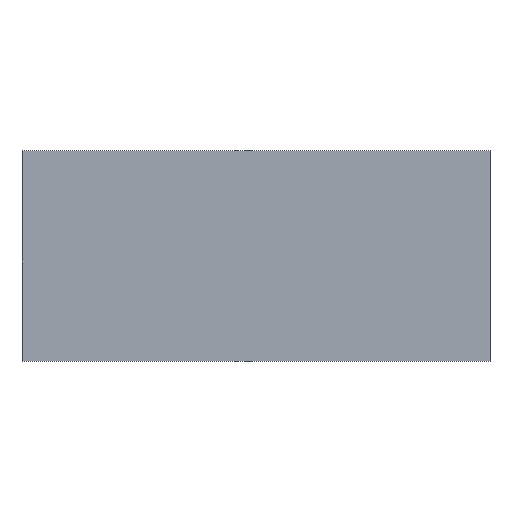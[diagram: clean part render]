
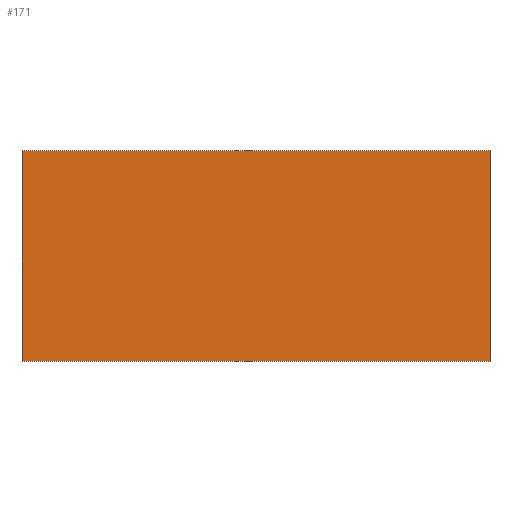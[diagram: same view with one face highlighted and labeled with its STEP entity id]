
A CAD part, top view. The second image highlights one B-rep face of the part: STEP entity #171.
In plain terms, the highlighted planar face has unit normal (0, 0, 1).
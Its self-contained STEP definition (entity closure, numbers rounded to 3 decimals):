
#42 = VERTEX_POINT('',#43);
#43 = CARTESIAN_POINT('',(40.,-18.,1.52));
#49 = EDGE_CURVE('',#42,#50,#52,.T.);
#50 = VERTEX_POINT('',#51);
#51 = CARTESIAN_POINT('',(0.,-18.,1.52));
#52 = LINE('',#53,#54);
#53 = CARTESIAN_POINT('',(40.,-18.,1.52));
#54 = VECTOR('',#55,1.);
#55 = DIRECTION('',(-1.,0.,0.));
#80 = EDGE_CURVE('',#50,#81,#83,.T.);
#81 = VERTEX_POINT('',#82);
#82 = CARTESIAN_POINT('',(0.,0.,1.52));
#83 = LINE('',#84,#85);
#84 = CARTESIAN_POINT('',(0.,-18.,1.52));
#85 = VECTOR('',#86,1.);
#86 = DIRECTION('',(0.,1.,0.));
#111 = EDGE_CURVE('',#81,#112,#114,.T.);
#112 = VERTEX_POINT('',#113);
#113 = CARTESIAN_POINT('',(40.,0.,1.52));
#114 = LINE('',#115,#116);
#115 = CARTESIAN_POINT('',(0.,0.,1.52));
#116 = VECTOR('',#117,1.);
#117 = DIRECTION('',(1.,0.,0.));
#142 = EDGE_CURVE('',#112,#42,#143,.T.);
#143 = LINE('',#144,#145);
#144 = CARTESIAN_POINT('',(40.,0.,1.52));
#145 = VECTOR('',#146,1.);
#146 = DIRECTION('',(0.,-1.,0.));
#171 = ADVANCED_FACE('',(#172),#178,.T.);
#172 = FACE_BOUND('',#173,.F.);
#173 = EDGE_LOOP('',(#174,#175,#176,#177));
#174 = ORIENTED_EDGE('',*,*,#49,.T.);
#175 = ORIENTED_EDGE('',*,*,#80,.T.);
#176 = ORIENTED_EDGE('',*,*,#111,.T.);
#177 = ORIENTED_EDGE('',*,*,#142,.T.);
#178 = PLANE('',#179);
#179 = AXIS2_PLACEMENT_3D('',#180,#181,#182);
#180 = CARTESIAN_POINT('',(0.,0.,1.52));
#181 = DIRECTION('',(0.,0.,1.));
#182 = DIRECTION('',(1.,0.,-0.));
